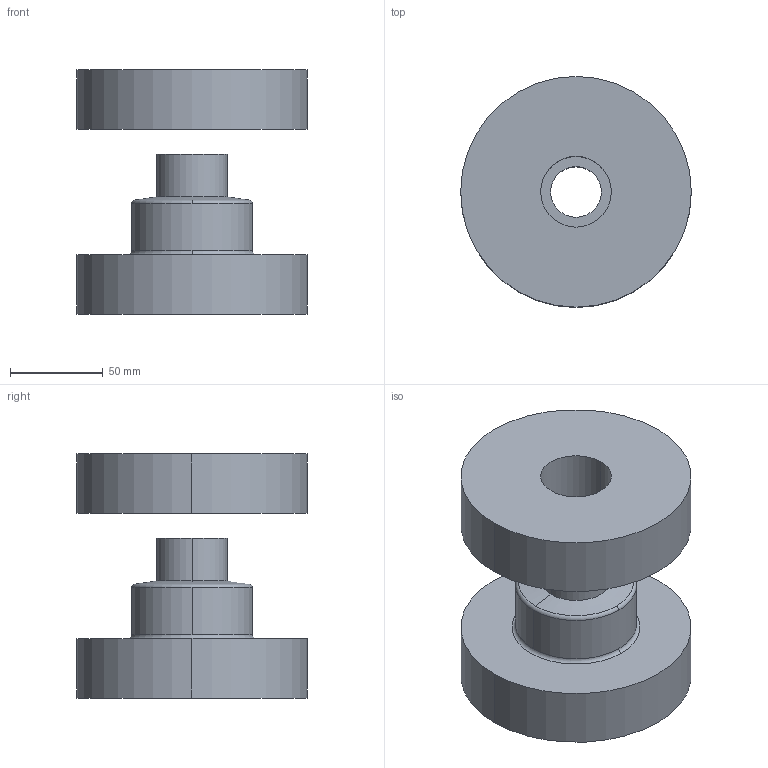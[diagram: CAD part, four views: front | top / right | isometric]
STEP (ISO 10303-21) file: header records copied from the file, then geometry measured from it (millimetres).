
FILE_DESCRIPTION(('STEP AP214'),'1');
FILE_NAME('C:/Transfer Dokumente/6005x 160226.stp','2026-02-16T11:54:24',(' '),(' '),'Spatial InterOp 3D',' ',' ');
FILE_SCHEMA(('automotive_design'));
Length unit declared in the file: millimetre
Products named in the file (2): 1; 2
Bounding box: 124 x 124 x 131.27 mm (x, y, z)
Volume: 813251.4 mm3; surface area: 89368.5 mm2
Topology: 2 solids, 2 shells, 23 faces, 53 edges, 35 vertices
Faces by surface type: cylinder 12, plane 5, torus 4, cone 2
Entity records: 716 total; most frequent: DIRECTION 142, CARTESIAN_POINT 113, ORIENTED_EDGE 106, AXIS2_PLACEMENT_3D 64, EDGE_CURVE 53, CIRCLE 39, VERTEX_POINT 35, EDGE_LOOP 28
